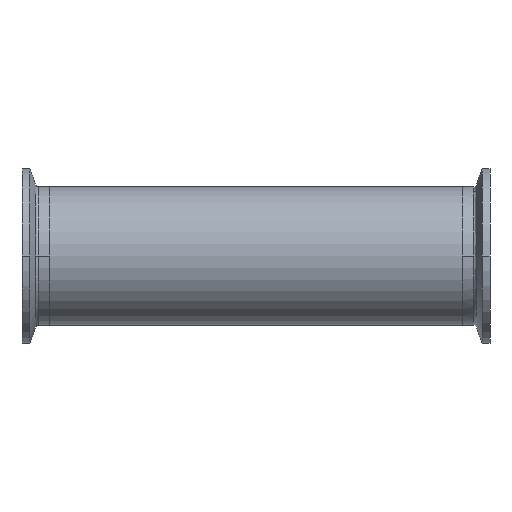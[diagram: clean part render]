
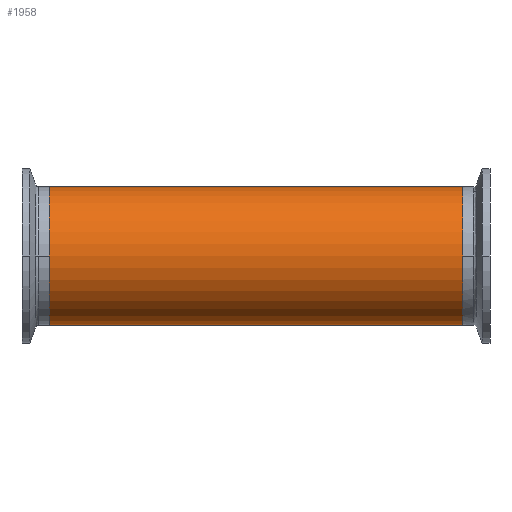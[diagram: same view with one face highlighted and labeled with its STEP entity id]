
A CAD part, front view. The second image highlights one B-rep face of the part: STEP entity #1958.
In plain terms, the highlighted cylindrical face has radius 25.4 mm (diameter 50.8 mm), a partial arc.
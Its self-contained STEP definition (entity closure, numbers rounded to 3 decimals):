
#86 = EDGE_LOOP ( 'NONE', ( #1896, #2939, #3742, #1540 ) ) ;
#120 = CARTESIAN_POINT ( 'NONE',  ( 147.542, 0., 25.4 ) ) ;
#234 = CIRCLE ( 'NONE', #1291, 25.4 ) ;
#453 = EDGE_CURVE ( 'NONE', #3075, #2642, #2172, .T. ) ;
#595 = AXIS2_PLACEMENT_3D ( 'NONE', #896, #3163, #1235 ) ;
#871 = EDGE_CURVE ( 'NONE', #3075, #2597, #234, .T. ) ;
#896 = CARTESIAN_POINT ( 'NONE',  ( -75.7, 0., 0. ) ) ;
#900 = DIRECTION ( 'NONE',  ( -1., 0., 0. ) ) ;
#951 = DIRECTION ( 'NONE',  ( 0., 0., 1. ) ) ;
#1085 = AXIS2_PLACEMENT_3D ( 'NONE', #3034, #3047, #3615 ) ;
#1174 = FACE_OUTER_BOUND ( 'NONE', #86, .T. ) ;
#1235 = DIRECTION ( 'NONE',  ( 0., 0., 1. ) ) ;
#1291 = AXIS2_PLACEMENT_3D ( 'NONE', #2609, #900, #951 ) ;
#1309 = CARTESIAN_POINT ( 'NONE',  ( 75.7, 0., -25.4 ) ) ;
#1483 = CARTESIAN_POINT ( 'NONE',  ( -75.7, 0., -25.4 ) ) ;
#1540 = ORIENTED_EDGE ( 'NONE', *, *, #2847, .T. ) ;
#1874 = VERTEX_POINT ( 'NONE', #3863 ) ;
#1896 = ORIENTED_EDGE ( 'NONE', *, *, #453, .F. ) ;
#1958 = ADVANCED_FACE ( 'NONE', ( #1174 ), #2704, .T. ) ;
#2075 = DIRECTION ( 'NONE',  ( -1., 0., 0. ) ) ;
#2172 = LINE ( 'NONE', #3737, #2917 ) ;
#2597 = VERTEX_POINT ( 'NONE', #3056 ) ;
#2609 = CARTESIAN_POINT ( 'NONE',  ( 75.7, 0., 0. ) ) ;
#2642 = VERTEX_POINT ( 'NONE', #1483 ) ;
#2648 = EDGE_CURVE ( 'NONE', #2597, #1874, #3904, .T. ) ;
#2704 = CYLINDRICAL_SURFACE ( 'NONE', #1085, 25.4 ) ;
#2771 = DIRECTION ( 'NONE',  ( -1., 0., 0. ) ) ;
#2847 = EDGE_CURVE ( 'NONE', #1874, #2642, #3818, .T. ) ;
#2917 = VECTOR ( 'NONE', #2075, 1000. ) ;
#2939 = ORIENTED_EDGE ( 'NONE', *, *, #871, .T. ) ;
#3034 = CARTESIAN_POINT ( 'NONE',  ( 147.542, 0., 0. ) ) ;
#3047 = DIRECTION ( 'NONE',  ( -1., 0., 0. ) ) ;
#3056 = CARTESIAN_POINT ( 'NONE',  ( 75.7, 0., 25.4 ) ) ;
#3075 = VERTEX_POINT ( 'NONE', #1309 ) ;
#3079 = VECTOR ( 'NONE', #2771, 1000. ) ;
#3163 = DIRECTION ( 'NONE',  ( 1., 0., 0. ) ) ;
#3615 = DIRECTION ( 'NONE',  ( 0., 0., 1. ) ) ;
#3737 = CARTESIAN_POINT ( 'NONE',  ( 147.542, 0., -25.4 ) ) ;
#3742 = ORIENTED_EDGE ( 'NONE', *, *, #2648, .T. ) ;
#3818 = CIRCLE ( 'NONE', #595, 25.4 ) ;
#3863 = CARTESIAN_POINT ( 'NONE',  ( -75.7, 0., 25.4 ) ) ;
#3904 = LINE ( 'NONE', #120, #3079 ) ;
